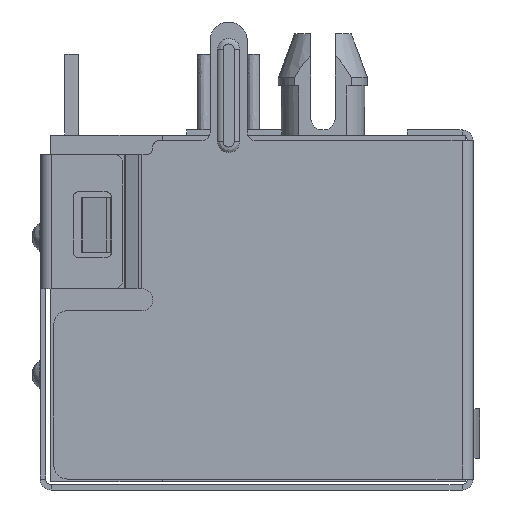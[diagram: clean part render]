
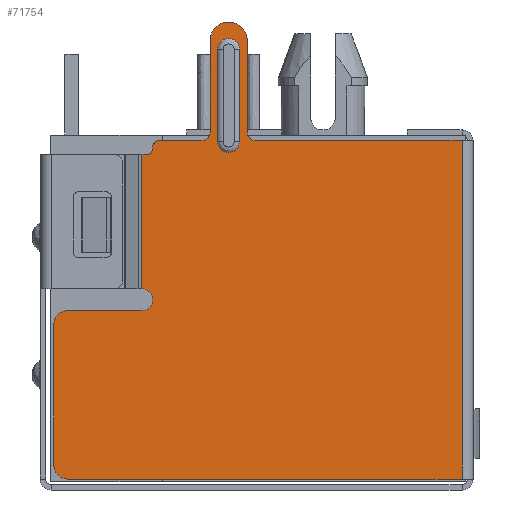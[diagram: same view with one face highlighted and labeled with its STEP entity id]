
A CAD part, left-side view. The second image highlights one B-rep face of the part: STEP entity #71754.
In plain terms, the highlighted planar face has unit normal (-1, 0, 0) as drawn and (1, 0, 0) by its records, which use the part's own axes.
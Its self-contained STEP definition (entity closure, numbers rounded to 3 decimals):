
#64662=DIRECTION('',(0.,0.,1.));
#64663=VECTOR('',#64662,12.3);
#64664=CARTESIAN_POINT('',(24.,-0.2,-12.3));
#64665=LINE('',#64664,#64663);
#64680=DIRECTION('',(0.,-1.,0.));
#64681=VECTOR('',#64680,7.515);
#64682=CARTESIAN_POINT('',(24.,-0.2,0.));
#64683=LINE('',#64682,#64681);
#64684=DIRECTION('',(0.,1.,0.));
#64685=VECTOR('',#64684,14.35);
#64686=CARTESIAN_POINT('',(24.,-14.55,-12.3));
#64687=LINE('',#64686,#64685);
#64688=CARTESIAN_POINT('',(24.,-14.55,-11.8));
#64689=DIRECTION('',(1.,0.,0.));
#64690=DIRECTION('',(0.,-1.,0.));
#64691=AXIS2_PLACEMENT_3D('',#64688,#64689,#64690);
#64693=DIRECTION('',(0.,0.,-1.));
#64694=VECTOR('',#64693,5.12);
#64695=CARTESIAN_POINT('',(24.,-15.05,-6.68));
#64696=LINE('',#64695,#64694);
#64697=CARTESIAN_POINT('',(24.,-14.55,-6.68));
#64698=DIRECTION('',(1.,0.,0.));
#64699=DIRECTION('',(0.,0.,1.));
#64700=AXIS2_PLACEMENT_3D('',#64697,#64698,#64699);
#64702=DIRECTION('',(0.,-1.,0.));
#64703=VECTOR('',#64702,2.7);
#64704=CARTESIAN_POINT('',(24.,-11.85,-6.18));
#64705=LINE('',#64704,#64703);
#64706=CARTESIAN_POINT('',(24.,-11.85,-5.78));
#64707=DIRECTION('',(-1.,0.,0.));
#64708=DIRECTION('',(0.,0.,1.));
#64709=AXIS2_PLACEMENT_3D('',#64706,#64707,#64708);
#64711=DIRECTION('',(0.,-1.,0.));
#64712=VECTOR('',#64711,0.18);
#64713=CARTESIAN_POINT('',(24.,-11.67,-0.5));
#64714=LINE('',#64713,#64712);
#64715=CARTESIAN_POINT('',(24.,-11.67,-0.28));
#64716=DIRECTION('',(-1.,0.,0.));
#64717=DIRECTION('',(0.,1.,0.));
#64718=AXIS2_PLACEMENT_3D('',#64715,#64716,#64717);
#64720=DIRECTION('',(0.,0.,-1.));
#64721=VECTOR('',#64720,0.06);
#64722=CARTESIAN_POINT('',(24.,-11.45,-0.22));
#64723=LINE('',#64722,#64721);
#64724=CARTESIAN_POINT('',(24.,-11.23,-0.22));
#64725=DIRECTION('',(1.,0.,0.));
#64726=DIRECTION('',(0.,0.,1.));
#64727=AXIS2_PLACEMENT_3D('',#64724,#64725,#64726);
#64729=DIRECTION('',(0.,-1.,0.));
#64730=VECTOR('',#64729,1.565);
#64731=CARTESIAN_POINT('',(24.,-9.665,0.));
#64732=LINE('',#64731,#64730);
#64733=CARTESIAN_POINT('',(24.,-9.665,0.3));
#64734=DIRECTION('',(-1.,0.,0.));
#64735=DIRECTION('',(0.,1.,0.));
#64736=AXIS2_PLACEMENT_3D('',#64733,#64734,#64735);
#64738=DIRECTION('',(0.,0.,-1.));
#64739=VECTOR('',#64738,3.35);
#64740=CARTESIAN_POINT('',(24.,-9.365,3.65));
#64741=LINE('',#64740,#64739);
#64742=CARTESIAN_POINT('',(24.,-8.69,3.65));
#64743=DIRECTION('',(1.,0.,0.));
#64744=DIRECTION('',(0.,1.,0.));
#64745=AXIS2_PLACEMENT_3D('',#64742,#64743,#64744);
#64747=DIRECTION('',(0.,0.,1.));
#64748=VECTOR('',#64747,3.35);
#64749=CARTESIAN_POINT('',(24.,-8.015,0.3));
#64750=LINE('',#64749,#64748);
#64751=CARTESIAN_POINT('',(24.,-7.715,0.3));
#64752=DIRECTION('',(-1.,0.,0.));
#64753=DIRECTION('',(0.,0.,-1.));
#64754=AXIS2_PLACEMENT_3D('',#64751,#64752,#64753);
#64756=CARTESIAN_POINT('',(24.,-8.69,3.325));
#64757=DIRECTION('',(1.,0.,0.));
#64758=DIRECTION('',(0.,1.,0.));
#64759=AXIS2_PLACEMENT_3D('',#64756,#64757,#64758);
#64761=DIRECTION('',(0.,0.,-1.));
#64762=VECTOR('',#64761,3.35);
#64763=CARTESIAN_POINT('',(24.,-9.09,3.325));
#64764=LINE('',#64763,#64762);
#64765=CARTESIAN_POINT('',(24.,-8.69,-0.025));
#64766=DIRECTION('',(1.,0.,0.));
#64767=DIRECTION('',(0.,-1.,0.));
#64768=AXIS2_PLACEMENT_3D('',#64765,#64766,#64767);
#64770=DIRECTION('',(0.,0.,1.));
#64771=VECTOR('',#64770,3.35);
#64772=CARTESIAN_POINT('',(24.,-8.29,-0.025));
#64773=LINE('',#64772,#64771);
#64832=DIRECTION('',(0.,0.,1.));
#64833=VECTOR('',#64832,4.88);
#64834=CARTESIAN_POINT('',(24.,-11.85,-5.38));
#64835=LINE('',#64834,#64833);
#67232=CARTESIAN_POINT('',(24.,-11.23,0.));
#67233=CARTESIAN_POINT('',(24.,-11.45,-0.22));
#67234=VERTEX_POINT('',#67232);
#67235=VERTEX_POINT('',#67233);
#67236=CARTESIAN_POINT('',(24.,-11.45,-0.28));
#67237=VERTEX_POINT('',#67236);
#67238=CARTESIAN_POINT('',(24.,-11.67,-0.5));
#67239=VERTEX_POINT('',#67238);
#67240=CARTESIAN_POINT('',(24.,-11.85,-0.5));
#67241=VERTEX_POINT('',#67240);
#67242=CARTESIAN_POINT('',(24.,-11.85,-5.38));
#67243=CARTESIAN_POINT('',(24.,-11.85,-6.18));
#67244=VERTEX_POINT('',#67242);
#67245=VERTEX_POINT('',#67243);
#67246=CARTESIAN_POINT('',(24.,-14.55,-6.18));
#67247=VERTEX_POINT('',#67246);
#67248=CARTESIAN_POINT('',(24.,-15.05,-6.68));
#67249=VERTEX_POINT('',#67248);
#67250=CARTESIAN_POINT('',(24.,-15.05,-11.8));
#67251=VERTEX_POINT('',#67250);
#67252=CARTESIAN_POINT('',(24.,-14.55,-12.3));
#67253=VERTEX_POINT('',#67252);
#67254=CARTESIAN_POINT('',(24.,-0.2,-12.3));
#67255=VERTEX_POINT('',#67254);
#67436=CARTESIAN_POINT('',(24.,-0.2,0.));
#67437=CARTESIAN_POINT('',(24.,-7.715,0.));
#67438=VERTEX_POINT('',#67436);
#67439=VERTEX_POINT('',#67437);
#67440=CARTESIAN_POINT('',(24.,-8.015,0.3));
#67441=VERTEX_POINT('',#67440);
#67442=CARTESIAN_POINT('',(24.,-8.015,3.65));
#67443=VERTEX_POINT('',#67442);
#67444=CARTESIAN_POINT('',(24.,-9.365,3.65));
#67445=VERTEX_POINT('',#67444);
#67446=CARTESIAN_POINT('',(24.,-9.365,0.3));
#67447=VERTEX_POINT('',#67446);
#67448=CARTESIAN_POINT('',(24.,-9.665,0.));
#67449=VERTEX_POINT('',#67448);
#67472=CARTESIAN_POINT('',(24.,-8.29,3.325));
#67473=CARTESIAN_POINT('',(24.,-9.09,3.325));
#67474=VERTEX_POINT('',#67472);
#67475=VERTEX_POINT('',#67473);
#67476=CARTESIAN_POINT('',(24.,-9.09,-0.025));
#67477=VERTEX_POINT('',#67476);
#67478=CARTESIAN_POINT('',(24.,-8.29,-0.025));
#67479=VERTEX_POINT('',#67478);
#71700=CARTESIAN_POINT('',(24.,0.2,-2.922));
#71701=DIRECTION('',(1.,0.,0.));
#71702=DIRECTION('',(0.,-1.,0.));
#71703=AXIS2_PLACEMENT_3D('',#71700,#71701,#71702);
#71704=PLANE('',#71703);
#71706=ORIENTED_EDGE('',*,*,#71705,.F.);
#71707=ORIENTED_EDGE('',*,*,#71691,.F.);
#71709=ORIENTED_EDGE('',*,*,#71708,.F.);
#71711=ORIENTED_EDGE('',*,*,#71710,.F.);
#71713=ORIENTED_EDGE('',*,*,#71712,.F.);
#71715=ORIENTED_EDGE('',*,*,#71714,.F.);
#71717=ORIENTED_EDGE('',*,*,#71716,.F.);
#71719=ORIENTED_EDGE('',*,*,#71718,.F.);
#71721=ORIENTED_EDGE('',*,*,#71720,.T.);
#71723=ORIENTED_EDGE('',*,*,#71722,.F.);
#71725=ORIENTED_EDGE('',*,*,#71724,.F.);
#71727=ORIENTED_EDGE('',*,*,#71726,.F.);
#71729=ORIENTED_EDGE('',*,*,#71728,.F.);
#71731=ORIENTED_EDGE('',*,*,#71730,.F.);
#71733=ORIENTED_EDGE('',*,*,#71732,.F.);
#71735=ORIENTED_EDGE('',*,*,#71734,.F.);
#71737=ORIENTED_EDGE('',*,*,#71736,.F.);
#71739=ORIENTED_EDGE('',*,*,#71738,.F.);
#71741=ORIENTED_EDGE('',*,*,#71740,.F.);
#71742=EDGE_LOOP('',(#71706,#71707,#71709,#71711,#71713,#71715,#71717,#71719,
#71721,#71723,#71725,#71727,#71729,#71731,#71733,#71735,#71737,#71739,#71741));
#71743=FACE_OUTER_BOUND('',#71742,.F.);
#71745=ORIENTED_EDGE('',*,*,#71744,.T.);
#71747=ORIENTED_EDGE('',*,*,#71746,.T.);
#71749=ORIENTED_EDGE('',*,*,#71748,.T.);
#71751=ORIENTED_EDGE('',*,*,#71750,.T.);
#71752=EDGE_LOOP('',(#71745,#71747,#71749,#71751));
#71753=FACE_BOUND('',#71752,.F.);
#71754=ADVANCED_FACE('',(#71743,#71753),#71704,.T.);
#64692=CIRCLE('',#64691,0.5);
#64701=CIRCLE('',#64700,0.5);
#64710=CIRCLE('',#64709,0.4);
#64719=CIRCLE('',#64718,0.22);
#64728=CIRCLE('',#64727,0.22);
#64737=CIRCLE('',#64736,0.3);
#64746=CIRCLE('',#64745,0.675);
#64755=CIRCLE('',#64754,0.3);
#64760=CIRCLE('',#64759,0.4);
#64769=CIRCLE('',#64768,0.4);
#71691=EDGE_CURVE('',#67255,#67438,#64665,.T.);
#71705=EDGE_CURVE('',#67438,#67439,#64683,.T.);
#71708=EDGE_CURVE('',#67253,#67255,#64687,.T.);
#71710=EDGE_CURVE('',#67251,#67253,#64692,.T.);
#71712=EDGE_CURVE('',#67249,#67251,#64696,.T.);
#71714=EDGE_CURVE('',#67247,#67249,#64701,.T.);
#71716=EDGE_CURVE('',#67245,#67247,#64705,.T.);
#71718=EDGE_CURVE('',#67244,#67245,#64710,.T.);
#71720=EDGE_CURVE('',#67244,#67241,#64835,.T.);
#71722=EDGE_CURVE('',#67239,#67241,#64714,.T.);
#71724=EDGE_CURVE('',#67237,#67239,#64719,.T.);
#71726=EDGE_CURVE('',#67235,#67237,#64723,.T.);
#71728=EDGE_CURVE('',#67234,#67235,#64728,.T.);
#71730=EDGE_CURVE('',#67449,#67234,#64732,.T.);
#71732=EDGE_CURVE('',#67447,#67449,#64737,.T.);
#71734=EDGE_CURVE('',#67445,#67447,#64741,.T.);
#71736=EDGE_CURVE('',#67443,#67445,#64746,.T.);
#71738=EDGE_CURVE('',#67441,#67443,#64750,.T.);
#71740=EDGE_CURVE('',#67439,#67441,#64755,.T.);
#71744=EDGE_CURVE('',#67474,#67475,#64760,.T.);
#71746=EDGE_CURVE('',#67475,#67477,#64764,.T.);
#71748=EDGE_CURVE('',#67477,#67479,#64769,.T.);
#71750=EDGE_CURVE('',#67479,#67474,#64773,.T.);
